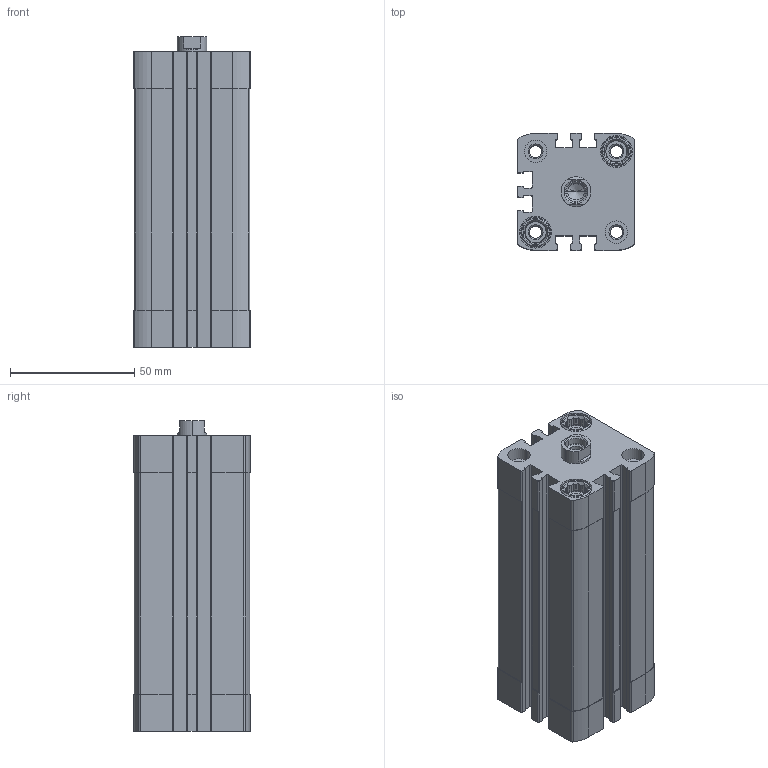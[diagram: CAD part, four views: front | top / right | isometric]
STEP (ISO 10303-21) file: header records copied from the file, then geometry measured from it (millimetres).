
FILE_DESCRIPTION (( 'STEP AP203' ), '1' );
FILE_NAME ('CCN32-75F.STEP', '2017-03-29T11:31:33', ( '' ), ( '' ), 'SwSTEP 2.0', 'SolidWorks 2016', '' );
FILE_SCHEMA (( 'CONFIG_CONTROL_DESIGN' ));
Length unit declared in the file: millimetre
Products named in the file (3): CCN-75---(Z); CCN-75_(KS); CCN32-75F
Assembly tree (2 placements, depth 2):
  CCN32-75F
    CCN-75---(Z)
    CCN-75_(KS)
Bounding box: 47 x 47 x 125 mm (x, y, z)
Volume: 163161.6 mm3; surface area: 63442.9 mm2
Topology: 2 solids, 2 shells, 479 faces, 1298 edges, 853 vertices
Faces by surface type: plane 267, cylinder 170, cone 42
Entity records: 15589 total; most frequent: CARTESIAN_POINT 2927, DIRECTION 2652, ORIENTED_EDGE 2592, EDGE_CURVE 1296, AXIS2_PLACEMENT_3D 970, VERTEX_POINT 853, LINE 712, VECTOR 712
